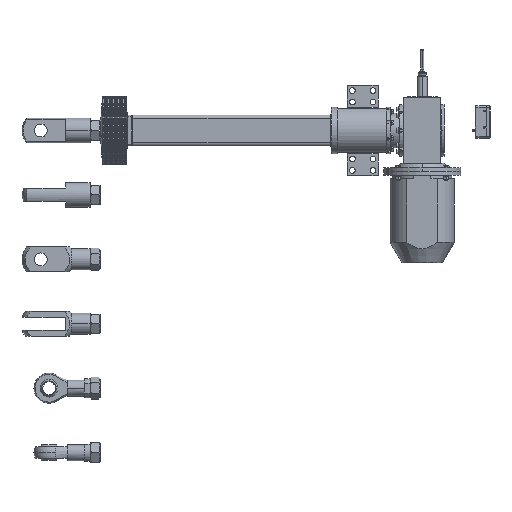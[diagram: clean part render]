
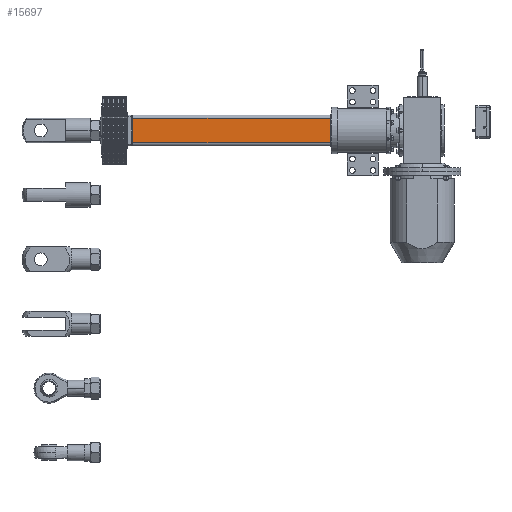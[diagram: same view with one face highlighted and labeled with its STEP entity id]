
A CAD part, front view. The second image highlights one B-rep face of the part: STEP entity #15697.
In plain terms, the highlighted planar face has unit normal (0, -1, 0).
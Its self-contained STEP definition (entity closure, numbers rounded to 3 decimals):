
#7659 = CARTESIAN_POINT ( 'NONE',  ( 780., -60., 48. ) ) ;
#7666 = CARTESIAN_POINT ( 'NONE',  ( 780., -60., -48. ) ) ;
#7678 = CARTESIAN_POINT ( 'NONE',  ( 2., -60., -48. ) ) ;
#7698 = CARTESIAN_POINT ( 'NONE',  ( 2., -60., 48. ) ) ;
#13168 = EDGE_CURVE ( 'NONE', #46681, #46688, #28235, .T. ) ;
#13202 = EDGE_CURVE ( 'NONE', #46681, #46720, #28292, .T. ) ;
#13203 = EDGE_CURVE ( 'NONE', #46720, #46700, #28290, .T. ) ;
#13204 = EDGE_CURVE ( 'NONE', #46688, #46700, #28295, .T. ) ;
#15697 = ADVANCED_FACE ( 'NONE', ( #56354 ), #55434, .F. ) ;
#22451 = CARTESIAN_POINT ( 'NONE',  ( 780., -60., 48. ) ) ;
#22452 = DIRECTION ( 'NONE',  ( 0., 0., -1. ) ) ;
#26264 = AXIS2_PLACEMENT_3D ( 'NONE', #55429, #55437, #55438 ) ;
#28235 = LINE ( 'NONE', #22451, #28240 ) ;
#28240 = VECTOR ( 'NONE', #22452, 1000. ) ;
#28290 = LINE ( 'NONE', #58924, #28296 ) ;
#28292 = LINE ( 'NONE', #58922, #28294 ) ;
#28294 = VECTOR ( 'NONE', #58914, 1000. ) ;
#28295 = LINE ( 'NONE', #58931, #28298 ) ;
#28296 = VECTOR ( 'NONE', #58929, 1000. ) ;
#28298 = VECTOR ( 'NONE', #58934, 1000. ) ;
#46681 = VERTEX_POINT ( 'NONE', #7659 ) ;
#46688 = VERTEX_POINT ( 'NONE', #7666 ) ;
#46700 = VERTEX_POINT ( 'NONE', #7678 ) ;
#46720 = VERTEX_POINT ( 'NONE', #7698 ) ;
#48401 = EDGE_LOOP ( 'NONE', ( #54038, #54039, #54040, #54041 ) ) ;
#54038 = ORIENTED_EDGE ( 'NONE', *, *, #13202, .T. ) ;
#54039 = ORIENTED_EDGE ( 'NONE', *, *, #13203, .T. ) ;
#54040 = ORIENTED_EDGE ( 'NONE', *, *, #13204, .F. ) ;
#54041 = ORIENTED_EDGE ( 'NONE', *, *, #13168, .F. ) ;
#55429 = CARTESIAN_POINT ( 'NONE',  ( 780., -60., 48. ) ) ;
#55434 = PLANE ( 'NONE',  #26264 ) ;
#55437 = DIRECTION ( 'NONE',  ( 0., 1., 0. ) ) ;
#55438 = DIRECTION ( 'NONE',  ( 0., 0., 1. ) ) ;
#56354 = FACE_OUTER_BOUND ( 'NONE', #48401, .T. ) ;
#58914 = DIRECTION ( 'NONE',  ( -1., 0., 0. ) ) ;
#58922 = CARTESIAN_POINT ( 'NONE',  ( 780., -60., 48. ) ) ;
#58924 = CARTESIAN_POINT ( 'NONE',  ( 2., -60., 48. ) ) ;
#58929 = DIRECTION ( 'NONE',  ( 0., 0., -1. ) ) ;
#58931 = CARTESIAN_POINT ( 'NONE',  ( 780., -60., -48. ) ) ;
#58934 = DIRECTION ( 'NONE',  ( -1., 0., 0. ) ) ;
